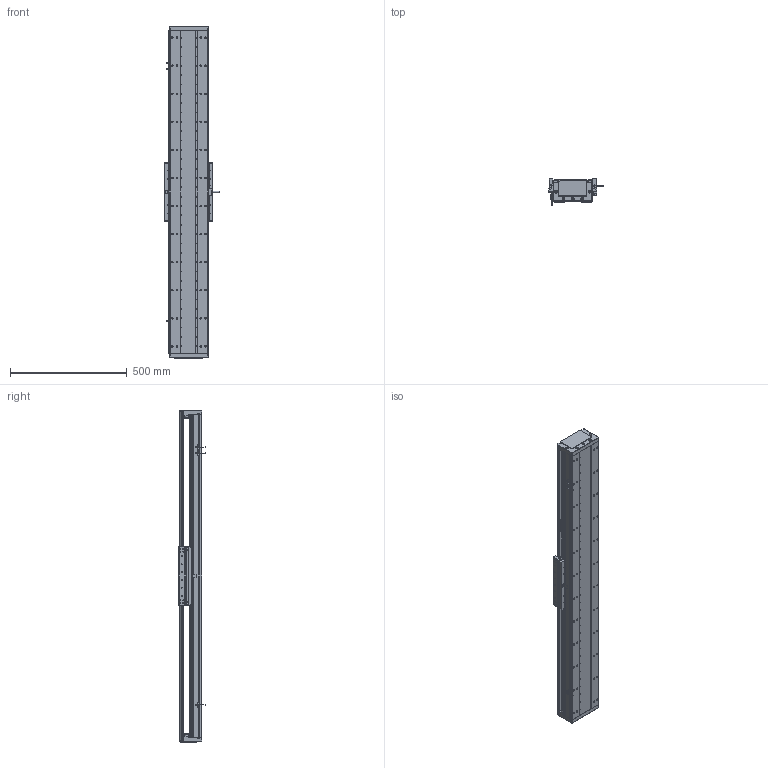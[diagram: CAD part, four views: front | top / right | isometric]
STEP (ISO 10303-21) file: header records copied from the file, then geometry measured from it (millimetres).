
FILE_DESCRIPTION (( 'STEP AP203' ), '1' );
FILE_NAME ('DA-C165-C3-T1080-C010-0.2 直线电机.STEP', '2023-06-13T08:43:08', ( '微软用户' ), ( '微软中国' ), 'SwSTEP 2.0', 'SolidWorks 2019', '' );
FILE_SCHEMA (( 'CONFIG_CONTROL_DESIGN' ));
Length unit declared in the file: millimetre
Products named in the file (15): 珨极趙賑雄怢啣C3-wf; 复件 DA95-HXJ-00 缓冲橡胶^DA-C165-C3-T-C010-0.2-N 直线电机; 复件 DA165-GYP-00 光电感应片^DA-C165-C3-T-C010-0.2-N 直线电机; 葩璃 CKM01-W075-TRL^DA-C165-C3-T-C010-0.2-N 眻盄萇儂; DA-C165-C3-T1080-C010-0.2 眻盄萇儂; 葩璃 PM-T45^DA-C165-C3-T-C010-0.2-N 眻盄萇儂; 复件 DA165-T-002-00 盖板^DA-C165-C3-T-C010-0.2-N 直线电机_0840-002-00; IU-CU165-L 菁釱絳寢; 复件 CU165 底座^IU-CU165-L 底座导轨_L1380; 复件 DMA-010-0.2 读数头^DA-C165-C3-T-C010-0.2-N 直线电机; 葩璃 CKM03-W075-C1C2-TP-3.0^DA-C165-C3-T-C010-0.2-N 眻盄萇儂; 复件 六角薄螺母 M3^DA-C165-C3-T-C010-0.2-N 直线电机_GB_FASTENER_NUT_STNAB M3-C; 复件 DA165-DG-H-N-00 端盖^DA-C165-C3-T-C010-0.2-N 直线电机; 葩璃 DA95-GT-T-00^IU-CU165-L 菁釱絳寢_T; 复件 XD-U-02L 磁栅尺^DA-C165-C3-T-C010-0.2-N 直线电机_T
Assembly tree (30 placements, depth 3):
  DA-C165-C3-T1080-C010-0.2 眻盄萇儂
    IU-CU165-L 菁釱絳寢
      复件 CU165 底座^IU-CU165-L 底座导轨_L1380
      葩璃 DA95-GT-T-00^IU-CU165-L 菁釱絳寢_T  x4
    复件 DA165-DG-H-N-00 端盖^DA-C165-C3-T-C010-0.2-N 直线电机  x2
    复件 DA95-HXJ-00 缓冲橡胶^DA-C165-C3-T-C010-0.2-N 直线电机  x4
    复件 DA165-T-002-00 盖板^DA-C165-C3-T-C010-0.2-N 直线电机_0840-002-00
    复件 XD-U-02L 磁栅尺^DA-C165-C3-T-C010-0.2-N 直线电机_T
    葩璃 PM-T45^DA-C165-C3-T-C010-0.2-N 眻盄萇儂  x3
    葩璃 CKM01-W075-TRL^DA-C165-C3-T-C010-0.2-N 眻盄萇儂
    复件 DA165-GYP-00 光电感应片^DA-C165-C3-T-C010-0.2-N 直线电机
    复件 DMA-010-0.2 读数头^DA-C165-C3-T-C010-0.2-N 直线电机
    葩璃 CKM03-W075-C1C2-TP-3.0^DA-C165-C3-T-C010-0.2-N 眻盄萇儂
    复件 六角薄螺母 M3^DA-C165-C3-T-C010-0.2-N 直线电机_GB_FASTENER_NUT_STNAB M3-C  x8
    珨极趙賑雄怢啣C3-wf
Bounding box: 233 x 111.45 x 1420 mm (x, y, z)
Volume: 10265352.6 mm3; surface area: 2807884 mm2
Topology: 68 solids, 118 shells, 3735 faces, 10182 edges, 6342 vertices
Faces by surface type: cylinder 1938, plane 1187, cone 552, torus 54, sphere 4
Entity records: 114279 total; most frequent: CARTESIAN_POINT 28196, DIRECTION 17766, ORIENTED_EDGE 17418, EDGE_CURVE 8709, AXIS2_PLACEMENT_3D 6748, VERTEX_POINT 5630, VECTOR 4270, LINE 4270
